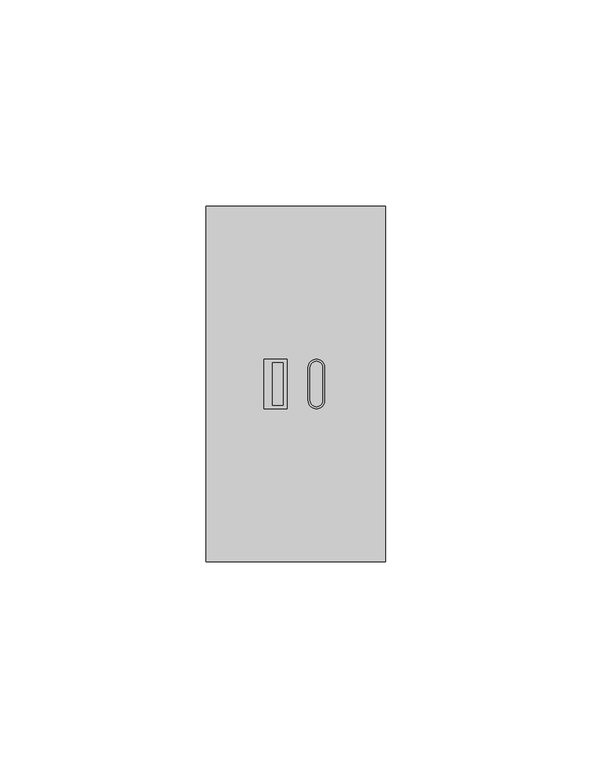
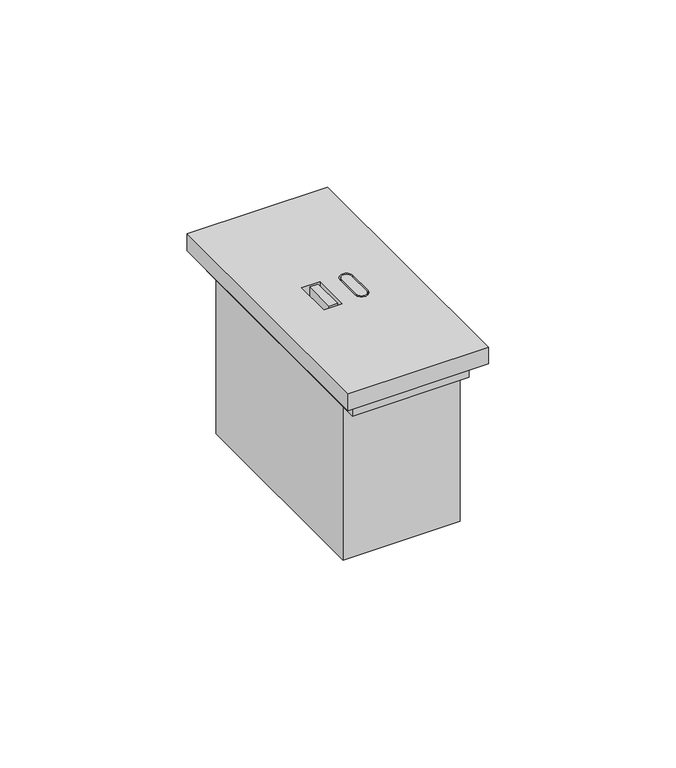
"""IFC4 building model written with IfcOpenShell, lengths in millimetres: proxy geometry, BT_LN-USB_A.C-K4287C2 : Presa USB-A - Art.4287C2 - 2M - Cover Nero."""

from ifc_helpers import new_model, si_unit, point, frame, frame_2d, origin, origin_with_axes, place, context, project, spatial, polyline, circle_curve, trimmed, segment, composite_curve, outline, extrude, source, transform, mapped, element, save


def electrical_fixtures_a1f34e63(model_context):
    return source(origin(), model_context, "Body", "SweptSolid", [
        extrude(outline(polyline([(-18.0, 39.0), (18.0, 39.0), (18.0, -39.0), (-18.0, -39.0), (-18.0, 39.0)])), frame((0.0, 0.0, 50.0), z_axis=(0.0, 0.0, 1.0), x_axis=(1.0, 0.0, 0.0)), (0.0, 0.0, 1.0), 5.5),
        extrude(outline(polyline([(-18.0, 34.0), (18.0, 34.0), (18.0, -34.0), (-18.0, -34.0), (-18.0, 34.0)])), origin_with_axes(), (0.0, 0.0, 1.0), 50.0),
        extrude(outline(composite_curve([segment(trimmed(circle_curve(frame_2d((5.0, 4.0)), 1.5), [point((3.5, 4.0))], [point((6.5, 4.0))], False, "CARTESIAN"), True, "CONTINUOUS"), segment(polyline([(6.5, 4.0), (6.5, -4.0)]), True, "CONTINUOUS"), segment(trimmed(circle_curve(frame_2d((5.0, -4.0)), 1.5), [point((6.5, -4.0))], [point((3.5, -4.0))], False, "CARTESIAN"), True, "CONTINUOUS"), segment(polyline([(3.5, -4.0), (3.5, 4.0)]), True, "CONTINUOUS")], self_intersect=False)), frame((0.0, 0.0, 55.5), z_axis=(0.0, 0.0, 1.0), x_axis=(1.0, 0.0, 0.0)), (0.0, 0.0, 1.0), 5.5),
        extrude(outline(polyline([(-5.6322356, -5.1875), (-5.6322356, 5.1875), (-3.0974444, 5.1875), (-3.0974444, -5.1875), (-5.6322356, -5.1875)])), frame((0.0, 0.0, 55.5), z_axis=(0.0, 0.0, 1.0), x_axis=(1.0, 0.0, 0.0)), (0.0, 0.0, 1.0), 5.5),
        extrude(outline(polyline([(-21.7, -43.0), (-21.7, 43.0), (21.7, 43.0), (21.7, -43.0), (-21.7, -43.0)]), holes=[composite_curve([segment(polyline([(3.0, 4.0), (3.0, -4.0)]), True, "CONTINUOUS"), segment(trimmed(circle_curve(frame_2d((5.0, -4.0)), 2.0), [point((3.0, -4.0))], [point((7.0, -4.0))], True, "CARTESIAN"), True, "CONTINUOUS"), segment(polyline([(7.0, -4.0), (7.0, 4.0)]), True, "CONTINUOUS"), segment(trimmed(circle_curve(frame_2d((5.0, 4.0)), 2.0), [point((7.0, 4.0))], [point((3.0, 4.0))], True, "CARTESIAN"), True, "CONTINUOUS")], self_intersect=False), polyline([(-2.0974444, 6.0), (-7.7551393, 6.0), (-7.7551393, -6.0), (-2.0974444, -6.0), (-2.0974444, 6.0)])]), frame((0.0, 0.0, 55.5), z_axis=(0.0, 0.0, 1.0), x_axis=(1.0, 0.0, 0.0)), (0.0, 0.0, 1.0), 5.5),
    ])


if __name__ == "__main__":
    model = new_model("IFC4")
    model_context = context("Model", 3, world=origin())
    ifc_project = project(units=[si_unit("LENGTHUNIT", "METRE", prefix="MILLI")], contexts=[model_context])
    site = spatial("IfcSite", under=ifc_project)
    building = spatial("IfcBuilding", under=site)
    placement = place(None, origin())
    electrical_fixtures_shape = electrical_fixtures_a1f34e63(model_context)
    element("IfcBuildingElementProxy", 1, Name="BT_LN-USB_A.C-K4287C2 : Presa USB-A - Art.4287C2 - 2M - Cover Nero", ObjectType="BT_LN-USB_A.C-K4287C2 : Presa USB-A - Art.4287C2 - 2M - Cover Nero", at=placement, inside=building, context=model_context, shape_type="MappedRepresentation", body=[
        mapped(electrical_fixtures_shape, transform((0.0, 0.0, 0.0), x_axis=(1.0, 0.0, 0.0), y_axis=(0.0, 1.0, 0.0), z_axis=(0.0, 0.0, 1.0))),
    ])
    save(model, "model.ifc")
